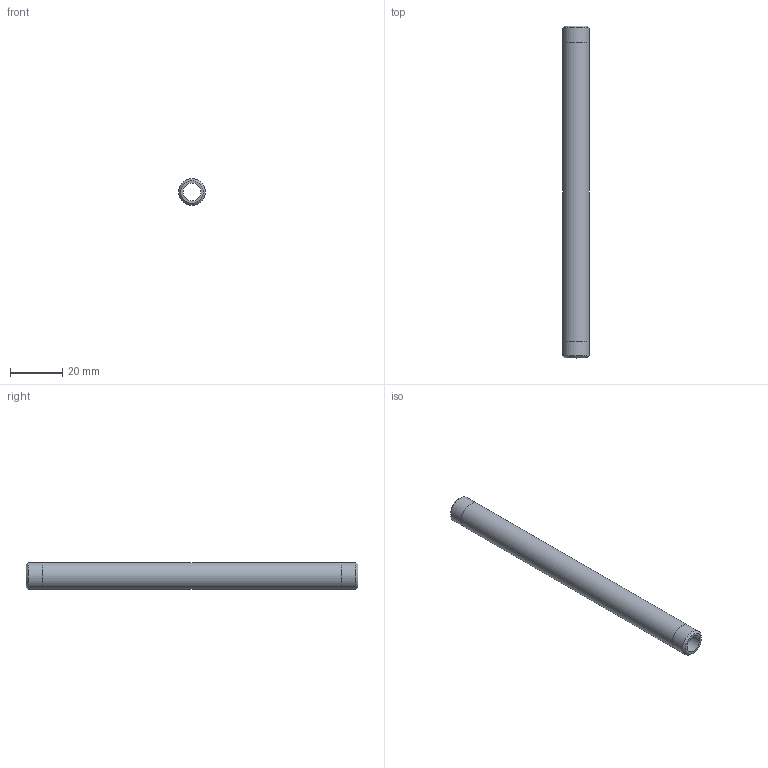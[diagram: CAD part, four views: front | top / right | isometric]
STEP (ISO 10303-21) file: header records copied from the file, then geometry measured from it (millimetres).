
FILE_DESCRIPTION(/* description */ (''),/* implementation_level */ '2;1');
FILE_NAME(/* name */ 'C:/Users/drich/Desktop/BPN18-5 v1.step',/* time_stamp */ '2020-01-03T14:48:53-06:00',/* author */ (''),/* organization */ (''),/* preprocessor_version */ 'ST-DEVELOPER v18',/* originating_system */ 'Autodesk Translation Framework v8.12.0.6',/* authorisation */ '');
FILE_SCHEMA (('AUTOMOTIVE_DESIGN { 1 0 10303 214 3 1 1 }'));
Length unit declared in the file: inch
Products named in the file (1): BPN18-5
Bounding box: 10.31 x 127 x 10.31 mm (x, y, z)
Volume: 5922.7 mm3; surface area: 6901.9 mm2
Topology: 1 solids, 1 shells, 10 faces, 24 edges, 18 vertices
Faces by surface type: cylinder 4, plane 4, cone 2
Full cylindrical faces by diameter (mm): 6.833 x1, 10.262 x2, 10.312 x1
Entity records: 360 total; most frequent: DIRECTION 64, CARTESIAN_POINT 53, ORIENTED_EDGE 48, AXIS2_PLACEMENT_3D 29, EDGE_CURVE 24, CIRCLE 18, VERTEX_POINT 18, EDGE_LOOP 14
